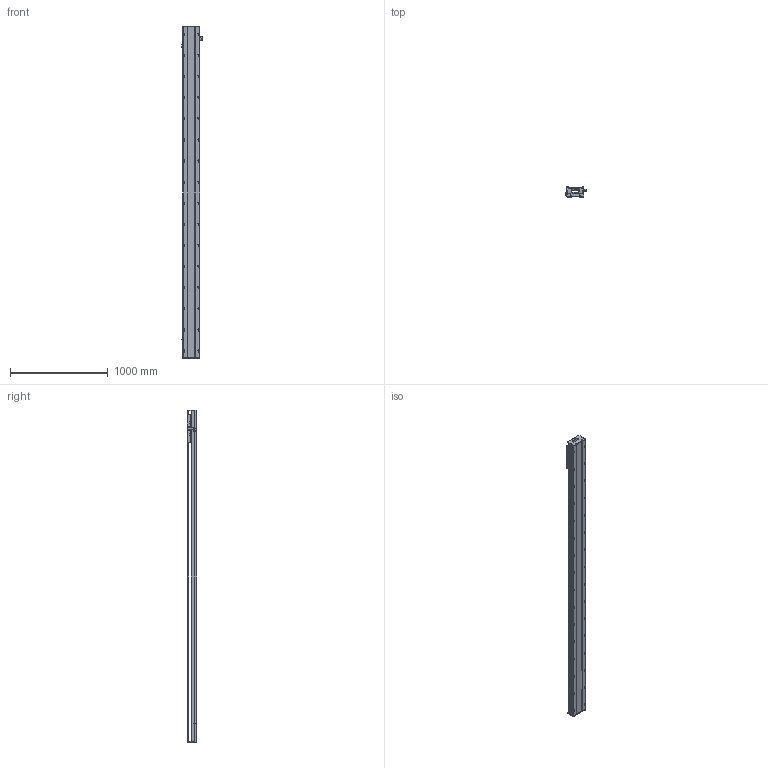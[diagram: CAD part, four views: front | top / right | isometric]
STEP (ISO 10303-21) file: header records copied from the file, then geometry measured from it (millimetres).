
FILE_DESCRIPTION (( 'STEP AP203' ), '1' );
FILE_NAME ('SKR17S-C2-S3016（简）.STEP', '2022-09-29T08:32:50', ( '' ), ( '' ), 'SwSTEP 2.0', 'SolidWorks 2018', '' );
FILE_SCHEMA (( 'CONFIG_CONTROL_DESIGN' ));
Length unit declared in the file: millimetre
Products named in the file (8): SKR17耜啣; SKR17S-C2-S3016（简）; EE-SX672; SKR17滑台-280L（简）; 感应片（SKR12S-14S-17S）; SIKO棠掑; SKR17底座-C2-S3016（简); 棠掑假蚾輸
Assembly tree (10 placements, depth 2):
  SKR17S-C2-S3016（简）
    SKR17底座-C2-S3016（简)
    SIKO棠掑
    EE-SX672  x3
    SKR17耜啣  x2
    棠掑假蚾輸
    SKR17滑台-280L（简）
    感应片（SKR12S-14S-17S）
Bounding box: 212.7 x 97 x 3396 mm (x, y, z)
Volume: 26027228 mm3; surface area: 3114119.8 mm2
Topology: 11 solids, 11 shells, 1576 faces, 4423 edges, 2837 vertices
Faces by surface type: cylinder 811, plane 607, cone 158
Entity records: 50467 total; most frequent: CARTESIAN_POINT 14271, ORIENTED_EDGE 7778, DIRECTION 6921, EDGE_CURVE 3889, VERTEX_POINT 2541, AXIS2_PLACEMENT_3D 2471, VECTOR 1979, LINE 1979
